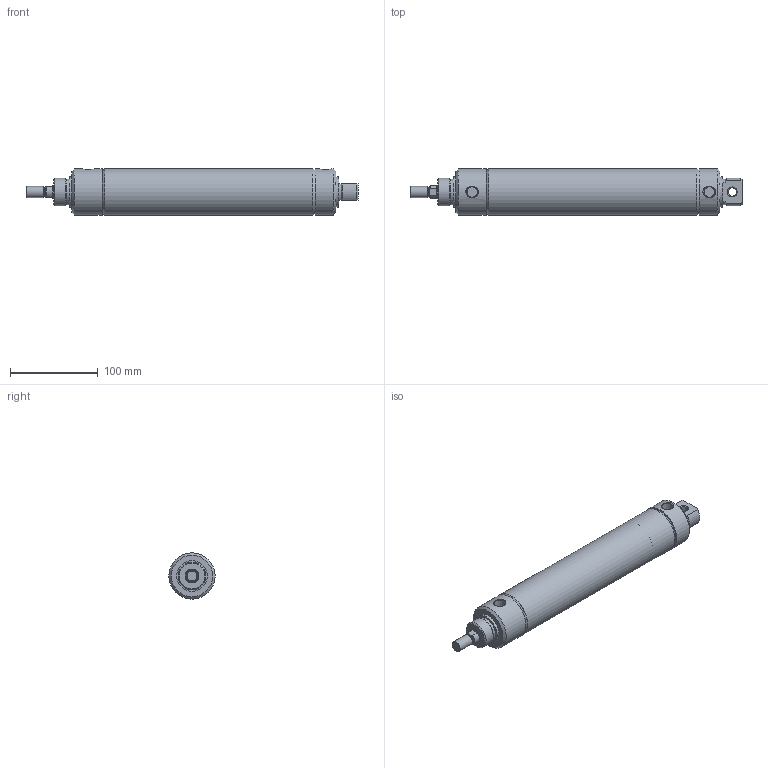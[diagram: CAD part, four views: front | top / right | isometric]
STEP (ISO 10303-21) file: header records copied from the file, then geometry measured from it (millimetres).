
FILE_DESCRIPTION( ( 'STEP AP214' ), '1' );
FILE_NAME( 'p:/temp/worker_474/temp/exporttempdir_78228_291_7XS1b/format_0/2000D02-08A-03.stp', '2020-05-07T19:20:02', ( 'License CC BY-ND 4.0' ), ( 'CADENAS' ), ' ', 'PARTsolutions', ' ' );
FILE_SCHEMA( ( 'AUTOMOTIVE_DESIGN { 1 0 10303 214 1 1 1 1 }' ) );
Length unit declared in the file: inch
Products named in the file (3): 2000D02-08A-03; _2000D02-08A-0300A00A0b; _2000D02-08A-0300A00A0r
Assembly tree (2 placements, depth 2):
  2000D02-08A-03
    _2000D02-08A-0300A00A0b
    _2000D02-08A-0300A00A0r
Bounding box: 379.43 x 52.78 x 52.78 mm (x, y, z)
Volume: 312851.1 mm3; surface area: 128975.1 mm2
Topology: 2 solids, 2 shells, 65 faces, 127 edges, 79 vertices
Faces by surface type: plane 23, cone 21, cylinder 21
Full cylindrical faces by diameter (mm): 9.525 x1, 11.189 x1, 12.7 x1, 15.875 x3, 29.23 x1, 31.75 x1, 34.925 x2, 50.8 x2, 52.578 x1, 52.781 x2
Entity records: 2254 total; most frequent: CARTESIAN_POINT 454, DIRECTION 276, ORIENTED_EDGE 188, AXIS2_PLACEMENT_3D 128, EDGE_LOOP 110, EDGE_CURVE 94, FACE_OUTER_BOUND 80, VERTEX_POINT 76
